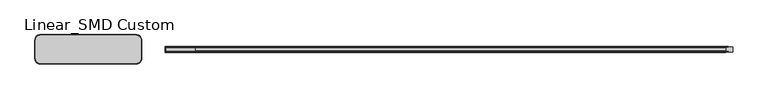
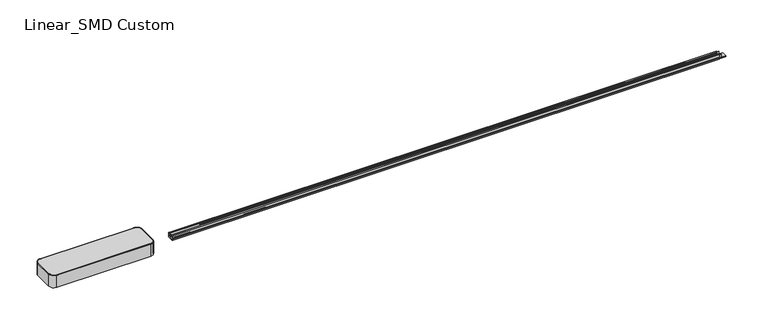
"""IFC4 building model written with IfcOpenShell, lengths in millimetres: light fixture geometry, ARTEMIDE-TurnAround-Linear_SMD : Linear_SMD Custom."""

from ifc_helpers import new_model, si_unit, point, frame, frame_2d, origin, origin_with_axes, place, context, project, spatial, polyline, circle_curve, ellipse_curve, trimmed, segment, composite_curve, outline, extrude, source, transform, mapped, element, save
from ifc_brep_helpers import plane_surface, cylinder_surface, revolved_surface, advanced_brep


def linear_smd_custom_d8e69743(model_context):
    return source(origin(), model_context, "Body", "SolidModel", [
        advanced_brep(
        [(-109.8389602, -55.0879179, 0.0), (-470.1610045, -55.0879179, 0.0), (-490.1610045, -35.0879179, 0.0), (-490.1610045, 35.0879179, 0.0), (-470.1610045, 55.0879179, 0.0), (-109.8389602, 55.0879179, 0.0), (-89.8389602, 35.0879179, 0.0), (-89.8389602, -35.0879179, 0.0), (-109.8389602, -53.0879179, 0.0), (-91.8389602, -35.0879179, 0.0), (-91.8389602, 35.0879179, 0.0), (-109.8389602, 53.0879179, 0.0), (-470.1610045, 53.0879179, 0.0), (-488.1610045, 35.0879179, 0.0), (-488.1610045, -35.0879179, 0.0), (-470.1610045, -53.0879179, 0.0), (-488.1610045, -35.0879179, 50.0), (-470.1610045, -53.0879179, 50.0), (-109.8389602, -53.0879179, 50.0), (-91.8389602, -35.0879179, 50.0), (-91.8389602, 35.0879179, 50.0), (-109.8389602, 53.0879179, 50.0), (-470.1610045, 53.0879179, 50.0), (-488.1610045, 35.0879179, 50.0), (-109.8389602, -55.0879179, 48.0), (-470.1610045, -55.0879179, 48.0), (-490.1610045, -35.0879179, 48.0), (-490.1610045, 35.0879179, 48.0), (-470.1610045, 55.0879179, 48.0), (-109.8389602, 55.0879179, 48.0), (-89.8389602, 35.0879179, 48.0), (-89.8389602, -35.0879179, 48.0), (-109.8389602, -53.0879179, 48.0), (-91.8389602, -35.0879179, 48.0), (-91.8389602, 35.0879179, 48.0), (-109.8389602, 53.0879179, 48.0), (-470.1610045, 53.0879179, 48.0), (-488.1610045, 35.0879179, 48.0), (-488.1610045, -35.0879179, 48.0), (-470.1610045, -53.0879179, 48.0)],
        [
            (0, 1),
            (1, 2, circle_curve(frame((-470.1610045, -35.0879179, 0.0), z_axis=(0.0, 0.0, -1.0), x_axis=(-1.0, 0.0, 0.0)), 20.0)),
            (2, 3),
            (3, 4, circle_curve(frame((-470.1610045, 35.0879179, 0.0), z_axis=(0.0, 0.0, -1.0), x_axis=(-1.0, 0.0, 0.0)), 20.0)),
            (4, 5),
            (5, 6, circle_curve(frame((-109.8389602, 35.0879179, 0.0), z_axis=(0.0, 0.0, -1.0), x_axis=(-1.0, 0.0, 0.0)), 20.0)),
            (6, 7),
            (7, 0, circle_curve(frame((-109.8389602, -35.0879179, 0.0), z_axis=(0.0, 0.0, -1.0), x_axis=(-1.0, 0.0, 0.0)), 20.0)),
            (8, 9, circle_curve(frame((-109.8389602, -35.0879179, 0.0), z_axis=(0.0, 0.0, 1.0), x_axis=(-1.0, 0.0, 0.0)), 18.0)),
            (9, 10),
            (10, 11, circle_curve(frame((-109.8389602, 35.0879179, 0.0), z_axis=(0.0, 0.0, 1.0), x_axis=(-1.0, 0.0, 0.0)), 18.0)),
            (11, 12),
            (12, 13, circle_curve(frame((-470.1610045, 35.0879179, 0.0), z_axis=(0.0, 0.0, 1.0), x_axis=(-1.0, 0.0, 0.0)), 18.0)),
            (13, 14),
            (14, 15, circle_curve(frame((-470.1610045, -35.0879179, 0.0), z_axis=(0.0, 0.0, 1.0), x_axis=(-1.0, 0.0, 0.0)), 18.0)),
            (15, 8),
            (16, 17, circle_curve(frame((-470.1610045, -35.0879179, 50.0), z_axis=(0.0, 0.0, 1.0), x_axis=(-1.0, 0.0, 0.0)), 18.0)),
            (17, 18),
            (18, 19, circle_curve(frame((-109.8389602, -35.0879179, 50.0), z_axis=(0.0, 0.0, 1.0), x_axis=(0.0, -1.0, 0.0)), 18.0)),
            (19, 20),
            (20, 21, circle_curve(frame((-109.8389602, 35.0879179, 50.0), z_axis=(0.0, 0.0, 1.0), x_axis=(1.0, 0.0, 0.0)), 18.0)),
            (21, 22),
            (22, 23, circle_curve(frame((-470.1610045, 35.0879179, 50.0), z_axis=(0.0, 0.0, 1.0), x_axis=(0.0, 1.0, 0.0)), 18.0)),
            (23, 16),
            (0, 24),
            (24, 25),
            (25, 1),
            (2, 26),
            (26, 27),
            (27, 3),
            (4, 28),
            (28, 29),
            (29, 5),
            (6, 30),
            (30, 31),
            (31, 7),
            (25, 26, circle_curve(frame((-470.1610045, -35.0879179, 48.0), z_axis=(0.0, 0.0, -1.0), x_axis=(-1.0, 0.0, 0.0)), 20.0)),
            (27, 28, circle_curve(frame((-470.1610045, 35.0879179, 48.0), z_axis=(0.0, 0.0, -1.0), x_axis=(-1.0, 0.0, 0.0)), 20.0)),
            (29, 30, circle_curve(frame((-109.8389602, 35.0879179, 48.0), z_axis=(0.0, 0.0, -1.0), x_axis=(-1.0, 0.0, 0.0)), 20.0)),
            (31, 24, circle_curve(frame((-109.8389602, -35.0879179, 48.0), z_axis=(0.0, 0.0, -1.0), x_axis=(-1.0, 0.0, 0.0)), 20.0)),
            (8, 32),
            (32, 33, circle_curve(frame((-109.8389602, -35.0879179, 48.0), z_axis=(0.0, 0.0, 1.0), x_axis=(-1.0, 0.0, 0.0)), 18.0)),
            (33, 9),
            (33, 34),
            (34, 10),
            (34, 35, circle_curve(frame((-109.8389602, 35.0879179, 48.0), z_axis=(0.0, 0.0, 1.0), x_axis=(-1.0, 0.0, 0.0)), 18.0)),
            (35, 11),
            (35, 36),
            (36, 12),
            (36, 37, circle_curve(frame((-470.1610045, 35.0879179, 48.0), z_axis=(0.0, 0.0, 1.0), x_axis=(-1.0, 0.0, 0.0)), 18.0)),
            (37, 13),
            (37, 38),
            (38, 14),
            (38, 39, circle_curve(frame((-470.1610045, -35.0879179, 48.0), z_axis=(0.0, 0.0, 1.0), x_axis=(-1.0, 0.0, 0.0)), 18.0)),
            (39, 15),
            (39, 32),
            (25, 17, circle_curve(frame((-470.1610045, -53.0879179, 48.0), z_axis=(-1.0, 0.0, 0.0), x_axis=(0.0, 1.0, 0.0)), 2.0)),
            (16, 26, circle_curve(frame((-488.1610045, -35.0879179, 48.0), z_axis=(0.0, -1.0, 0.0), x_axis=(1.0, 0.0, 0.0)), 2.0)),
            (24, 18, circle_curve(frame((-109.8389602, -53.0879179, 48.0), z_axis=(-1.0, 0.0, 0.0), x_axis=(0.0, 1.0, 0.0)), 2.0)),
            (31, 19, circle_curve(frame((-91.8389602, -35.0879179, 48.0), z_axis=(0.0, -1.0, 0.0), x_axis=(-1.0, 0.0, 0.0)), 2.0)),
            (30, 20, circle_curve(frame((-91.8389602, 35.0879179, 48.0), z_axis=(0.0, -1.0, 0.0), x_axis=(-1.0, 0.0, 0.0)), 2.0)),
            (29, 21, circle_curve(frame((-109.8389602, 53.0879179, 48.0), z_axis=(1.0, 0.0, 0.0), x_axis=(0.0, -1.0, 0.0)), 2.0)),
            (28, 22, circle_curve(frame((-470.1610045, 53.0879179, 48.0), z_axis=(1.0, 0.0, 0.0), x_axis=(0.0, -1.0, 0.0)), 2.0)),
            (27, 23, circle_curve(frame((-488.1610045, 35.0879179, 48.0), z_axis=(0.0, 1.0, 0.0), x_axis=(1.0, 0.0, 0.0)), 2.0)),
        ],
        [
            plane_surface(frame((-470.1610045, -55.0879179, 0.0), z_axis=(0.0, 0.0, -1.0), x_axis=(-1.0, 0.0, 0.0))),
            plane_surface(frame((-470.1610045, -55.0879179, 50.0), z_axis=(0.0, 0.0, 1.0), x_axis=(1.0, 0.0, 0.0))),
            plane_surface(frame((-109.8389602, -55.0879179, 0.0), z_axis=(0.0, -1.0, 0.0), x_axis=(0.0, 0.0, 1.0))),
            plane_surface(frame((-490.1610045, -35.0879179, 0.0), z_axis=(-1.0, 0.0, 0.0), x_axis=(0.0, 0.0, 1.0))),
            plane_surface(frame((-470.1610045, 55.0879179, 0.0), z_axis=(0.0, 1.0, 0.0), x_axis=(0.0, 0.0, 1.0))),
            plane_surface(frame((-89.8389602, 35.0879179, 0.0), z_axis=(1.0, 0.0, 0.0), x_axis=(0.0, 0.0, 1.0))),
            cylinder_surface(frame((-470.1610045, -35.0879179, 50.0), z_axis=(0.0, 0.0, -1.0), x_axis=(-1.0, 0.0, 0.0)), 20.0),
            cylinder_surface(frame((-470.1610045, 35.0879179, 50.0), z_axis=(0.0, 0.0, -1.0), x_axis=(-1.0, 0.0, 0.0)), 20.0),
            cylinder_surface(frame((-109.8389602, 35.0879179, 50.0), z_axis=(0.0, 0.0, -1.0), x_axis=(-1.0, 0.0, 0.0)), 20.0),
            cylinder_surface(frame((-109.8389602, -35.0879179, 50.0), z_axis=(0.0, 0.0, -1.0), x_axis=(-1.0, 0.0, 0.0)), 20.0),
            revolved_surface(polyline([(-127.8389602, -35.0879179, 48.0), (-127.8389602, -35.0879179, 0.0)]), (-109.8389602, -35.0879179, 0.0), (0.0, 0.0, 1.0)),
            plane_surface(frame((-91.8389602, -35.0879179, 0.0), z_axis=(-1.0, 0.0, 0.0), x_axis=(0.0, 0.0, 1.0))),
            revolved_surface(polyline([(-127.8389602, 35.0879179, 48.0), (-127.8389602, 35.0879179, 0.0)]), (-109.8389602, 35.0879179, 0.0), (0.0, 0.0, 1.0)),
            plane_surface(frame((-109.8389602, 53.0879179, 0.0), z_axis=(0.0, -1.0, 0.0), x_axis=(0.0, 0.0, 1.0))),
            revolved_surface(polyline([(-488.1610045, 35.0879179, 48.0), (-488.1610045, 35.0879179, 0.0)]), (-470.1610045, 35.0879179, 0.0), (0.0, 0.0, 1.0)),
            plane_surface(frame((-488.1610045, 35.0879179, 0.0), z_axis=(1.0, 0.0, 0.0), x_axis=(0.0, 0.0, 1.0))),
            revolved_surface(polyline([(-488.1610045, -35.0879179, 48.0), (-488.1610045, -35.0879179, 0.0)]), (-470.1610045, -35.0879179, 0.0), (0.0, 0.0, 1.0)),
            plane_surface(frame((-470.1610045, -53.0879179, 0.0), z_axis=(0.0, 1.0, 0.0), x_axis=(0.0, 0.0, 1.0))),
            plane_surface(frame((-470.1610045, -55.0879179, 48.0), z_axis=(0.0, 0.0, -1.0), x_axis=(-1.0, 0.0, 0.0))),
            revolved_surface(trimmed(ellipse_curve(frame((-488.1610045, -35.0879179, 48.0), z_axis=(0.0, 1.0, 0.0), x_axis=(1.0, 0.0, 0.0)), 2.0, 2.0), [point((-490.1610045, -35.0879179, 48.0))], [point((-488.1610045, -35.0879179, 50.0))], True, "CARTESIAN"), (-470.1610045, -35.0879179, 50.0), (0.0, 0.0, 1.0)),
            cylinder_surface(frame((-470.1610045, -53.0879179, 48.0), z_axis=(1.0, 0.0, 0.0), x_axis=(0.0, 1.0, 0.0)), 2.0),
            revolved_surface(trimmed(ellipse_curve(frame((-109.8389602, -53.0879179, 48.0), z_axis=(-1.0, 0.0, 0.0), x_axis=(0.0, 1.0, 0.0)), 2.0, 2.0), [point((-109.8389602, -55.0879179, 48.0))], [point((-109.8389602, -53.0879179, 50.0))], True, "CARTESIAN"), (-109.8389602, -35.0879179, 50.0), (0.0, 0.0, 1.0)),
            cylinder_surface(frame((-91.8389602, -35.0879179, 48.0), z_axis=(0.0, 1.0, 0.0), x_axis=(-1.0, 0.0, 0.0)), 2.0),
            revolved_surface(trimmed(ellipse_curve(frame((-91.8389602, 35.0879179, 48.0), z_axis=(0.0, -1.0, 0.0), x_axis=(-1.0, 0.0, 0.0)), 2.0, 2.0), [point((-89.8389602, 35.0879179, 48.0))], [point((-91.8389602, 35.0879179, 50.0))], True, "CARTESIAN"), (-109.8389602, 35.0879179, 50.0), (0.0, 0.0, 1.0)),
            cylinder_surface(frame((-109.8389602, 53.0879179, 48.0), z_axis=(-1.0, 0.0, 0.0), x_axis=(0.0, -1.0, 0.0)), 2.0),
            revolved_surface(trimmed(ellipse_curve(frame((-470.1610045, 53.0879179, 48.0), z_axis=(1.0, 0.0, 0.0), x_axis=(0.0, -1.0, 0.0)), 2.0, 2.0), [point((-470.1610045, 55.0879179, 48.0))], [point((-470.1610045, 53.0879179, 50.0))], True, "CARTESIAN"), (-470.1610045, 35.0879179, 50.0), (0.0, 0.0, 1.0)),
            cylinder_surface(frame((-488.1610045, 35.0879179, 48.0), z_axis=(0.0, -1.0, 0.0), x_axis=(1.0, 0.0, 0.0)), 2.0),
        ],
        [
            (0, [[1, 2, 3, 4, 5, 6, 7, 8], [9, 10, 11, 12, 13, 14, 15, 16]]),
            (1, [[17, 18, 19, 20, 21, 22, 23, 24]]),
            (2, [[-1, 25, 26, 27]]),
            (3, [[-3, 28, 29, 30]]),
            (4, [[-5, 31, 32, 33]]),
            (5, [[-7, 34, 35, 36]]),
            (6, [[-2, -27, 37, -28]]),
            (7, [[-4, -30, 38, -31]]),
            (8, [[-6, -33, 39, -34]]),
            (9, [[-8, -36, 40, -25]]),
            (10, [[-9, 41, 42, 43]]),
            (11, [[-10, -43, 44, 45]]),
            (12, [[-11, -45, 46, 47]]),
            (13, [[-12, -47, 48, 49]]),
            (14, [[-13, -49, 50, 51]]),
            (15, [[-14, -51, 52, 53]]),
            (16, [[-15, -53, 54, 55]]),
            (17, [[-16, -55, 56, -41]]),
            (18, [[-42, -56, -54, -52, -50, -48, -46, -44]]),
            (19, [[57, -17, 58, -37]]),
            (20, [[-57, -26, 59, -18]]),
            (21, [[-59, -40, 60, -19]]),
            (22, [[-60, -35, 61, -20]]),
            (23, [[-61, -39, 62, -21]]),
            (24, [[-62, -32, 63, -22]]),
            (25, [[-63, -38, 64, -23]]),
            (26, [[-58, -24, -64, -29]]),
        ],
    ),
        extrude(outline(polyline([(110.0, 6.3498693), (110.0, -6.3499287), (0.0, -6.3499287), (0.0, 6.3498693), (110.0, 6.3498693)])), frame((0.0, 0.0, 6.9503638), z_axis=(0.0, 0.0, 1.0), x_axis=(1.0, 0.0, 0.0)), (0.0, 0.0, 1.0), 10.8496362),
        extrude(outline(composite_curve([segment(polyline([(9.9996331, 6.7503638), (9.9996331, 17.2002115), (7.9680122, 17.2001219), (7.9680122, 16.200149), (7.1680122, 16.200149), (7.1680122, 17.0500635), (6.3498693, 17.0500635), (6.3498693, 18.3), (11.0170651, 18.3), (11.0170651, 7.9565084)]), True, "CONTINUOUS"), segment(trimmed(circle_curve(frame_2d((18.0138248, 5.9749675)), 7.2719427), [point((11.0170651, 7.9565084))], [point((11.0170651, 3.9934267))], True, "CARTESIAN"), True, "CONTINUOUS"), segment(polyline([(11.0170651, 3.9934267), (11.0170651, 0.0003595), (10.000004, 0.0003595), (10.000004, 2.0003645), (6.3499287, 2.0003645), (6.3499287, 3.2503421), (9.4999904, 3.2503421), (9.4999904, 5.300364), (-9.4999904, 5.300364), (-9.4999904, 3.2503421), (-6.3499287, 3.2503421), (-6.3499287, 2.0003645), (-10.000004, 2.0003645), (-10.000004, 0.0003595), (-11.0170651, 0.0003595), (-11.0170651, 3.9934267)]), True, "CONTINUOUS"), segment(trimmed(circle_curve(frame_2d((-18.0138248, 5.9749675)), 7.2719427), [point((-11.0170651, 3.9934267))], [point((-11.0170651, 7.9565084))], True, "CARTESIAN"), True, "CONTINUOUS"), segment(polyline([(-11.0170651, 7.9565084), (-11.0170651, 18.3), (-6.3498693, 18.3), (-6.3498693, 17.0500635), (-7.1680122, 17.0500635), (-7.1680122, 16.200149), (-7.9680122, 16.200149), (-7.9680122, 17.2001219), (-9.9996331, 17.2002115), (-9.9996331, 6.7503638), (-7.9680122, 6.7503638), (-7.9680122, 7.7503638), (-7.1680122, 7.7503638), (-7.1680122, 6.9503638), (7.1680122, 6.9503638), (7.1680122, 7.7503638), (7.9680122, 7.7503638), (7.9680122, 6.7503638), (9.9996331, 6.7503638)]), True, "CONTINUOUS")], self_intersect=False)), frame((0.0, 0.0, 0.0), z_axis=(1.0, 0.0, 0.0), x_axis=(0.0, 1.0, 0.0)), (0.0, 0.0, 1.0), 2100.0),
        extrude(outline(polyline([(1390.0, -9.5), (1390.0, 9.5), (1410.0, 9.5), (1410.0, -9.5), (1390.0, -9.5)])), origin_with_axes(), (0.0, 0.0, 1.0), 2.0),
        extrude(outline(polyline([(1410.0, -9.5), (1390.0, -9.5), (1390.0, 9.5), (1410.0, 9.5), (1410.0, -9.5)])), frame((0.0, 0.0, 3.2503421), z_axis=(0.0, 0.0, 1.0), x_axis=(1.0, 0.0, 0.0)), (0.0, 0.0, 1.0), 2.0496579),
        extrude(outline(polyline([(17.0500635, 2103.6635812), (17.0500635, 2096.3364188), (16.2109032, 2091.5773043), (7.804045, 2091.5773043), (6.9503638, 2096.418771), (6.9503638, 2103.581229), (7.804045, 2108.4226957), (16.1818614, 2108.4226957), (17.0500635, 2103.6635812)])), frame((0.0, -10.0, 0.0), z_axis=(0.0, 1.0, 0.0), x_axis=(0.0, 0.0, 1.0)), (0.0, 0.0, 1.0), 1.3991753),
        extrude(outline(polyline([(2075.0, -9.5), (2075.0, 9.5), (2125.0, 9.5), (2125.0, -9.5), (2075.0, -9.5)])), origin_with_axes(), (0.0, 0.0, 1.0), 2.0),
        extrude(outline(polyline([(690.0, -9.5), (690.0, 9.5), (710.0, 9.5), (710.0, -9.5), (690.0, -9.5)])), origin_with_axes(), (0.0, 0.0, 1.0), 2.0),
        extrude(outline(polyline([(0.0, -9.5), (0.0, 9.5), (20.0, 9.5), (20.0, -9.5), (0.0, -9.5)])), origin_with_axes(), (0.0, 0.0, 1.0), 2.0),
        extrude(outline(polyline([(2125.0, -9.5), (2075.0, -9.5), (2075.0, 9.5), (2125.0, 9.5), (2125.0, -9.5)])), frame((0.0, 0.0, 3.2503421), z_axis=(0.0, 0.0, 1.0), x_axis=(1.0, 0.0, 0.0)), (0.0, 0.0, 1.0), 2.0496579),
        extrude(outline(polyline([(710.0, -9.5), (690.0, -9.5), (690.0, 9.5), (710.0, 9.5), (710.0, -9.5)])), frame((0.0, 0.0, 3.2503421), z_axis=(0.0, 0.0, 1.0), x_axis=(1.0, 0.0, 0.0)), (0.0, 0.0, 1.0), 2.0496579),
        extrude(outline(polyline([(20.0, -9.5), (0.0, -9.5), (0.0, 9.5), (20.0, 9.5), (20.0, -9.5)])), frame((0.0, 0.0, 3.2503421), z_axis=(0.0, 0.0, 1.0), x_axis=(1.0, 0.0, 0.0)), (0.0, 0.0, 1.0), 2.0496579),
        extrude(outline(composite_curve([segment(trimmed(circle_curve(frame_2d((7.4508247, 9.9003638)), 1.15), [point((8.6008247, 9.9003638))], [point((6.3008247, 9.9003638))], False, "CARTESIAN"), True, "CONTINUOUS"), segment(trimmed(circle_curve(frame_2d((7.4508247, 9.9003638)), 1.15), [point((6.3008247, 9.9003638))], [point((8.6008247, 9.9003638))], False, "CARTESIAN"), True, "CONTINUOUS")], self_intersect=False)), frame((0.0, 0.0, 0.0), z_axis=(1.0, 0.0, 0.0), x_axis=(0.0, 1.0, 0.0)), (0.0, 0.0, 1.0), 2100.0),
        extrude(outline(composite_curve([segment(trimmed(circle_curve(frame_2d((7.4508247, 14.0502732)), 1.15), [point((8.6008247, 14.0502732))], [point((6.3008247, 14.0502732))], False, "CARTESIAN"), True, "CONTINUOUS"), segment(trimmed(circle_curve(frame_2d((7.4508247, 14.0502732)), 1.15), [point((6.3008247, 14.0502732))], [point((8.6008247, 14.0502732))], False, "CARTESIAN"), True, "CONTINUOUS")], self_intersect=False)), frame((0.0, 0.0, 0.0), z_axis=(1.0, 0.0, 0.0), x_axis=(0.0, 1.0, 0.0)), (0.0, 0.0, 1.0), 2100.0),
        extrude(outline(composite_curve([segment(trimmed(circle_curve(frame_2d((-7.4508247, 9.9003638)), 1.15), [point((-8.6008247, 9.9003638))], [point((-6.3008247, 9.9003638))], False, "CARTESIAN"), True, "CONTINUOUS"), segment(trimmed(circle_curve(frame_2d((-7.4508247, 9.9003638)), 1.15), [point((-6.3008247, 9.9003638))], [point((-8.6008247, 9.9003638))], False, "CARTESIAN"), True, "CONTINUOUS")], self_intersect=False)), frame((0.0, 0.0, 0.0), z_axis=(1.0, 0.0, 0.0), x_axis=(0.0, 1.0, 0.0)), (0.0, 0.0, 1.0), 2100.0),
        extrude(outline(composite_curve([segment(trimmed(circle_curve(frame_2d((-7.4508247, 14.0502732)), 1.15), [point((-8.6008247, 14.0502732))], [point((-6.3008247, 14.0502732))], False, "CARTESIAN"), True, "CONTINUOUS"), segment(trimmed(circle_curve(frame_2d((-7.4508247, 14.0502732)), 1.15), [point((-6.3008247, 14.0502732))], [point((-8.6008247, 14.0502732))], False, "CARTESIAN"), True, "CONTINUOUS")], self_intersect=False)), frame((0.0, 0.0, 0.0), z_axis=(1.0, 0.0, 0.0), x_axis=(0.0, 1.0, 0.0)), (0.0, 0.0, 1.0), 2100.0),
        advanced_brep(
        [(10.0, 9.9996331, 6.7503638), (10.0, 7.9680122, 6.7503638), (10.0, 7.9680122, 7.7503638), (10.0, 6.3251754, 7.7503638), (10.0, 6.3251754, 8.7503638), (10.0, 7.4508247, 8.7503638), (10.0, 7.4508247, 11.0503638), (10.0, 6.3251754, 11.0503638), (10.0, 6.3251754, 12.9002732), (10.0, 7.4508247, 12.9002732), (10.0, 7.4508247, 15.2002732), (10.0, 6.3251754, 15.2002732), (10.0, 6.3251754, 16.2002732), (10.0, 7.9680122, 16.200149), (10.0, 7.9680122, 17.2001219), (10.0, 9.9996331, 17.2002115), (2090.0, 9.9996331, 6.7503638), (2090.0, 9.9996331, 17.2002115), (2090.0, 7.9680122, 17.2001219), (2090.0, 7.9680122, 16.200149), (2090.0, 6.3251754, 16.200149), (2090.0, 6.3251754, 15.2002732), (2090.0, 7.4508247, 15.2002732), (2090.0, 7.4508247, 12.9002732), (2090.0, 6.3251754, 12.9002732), (2090.0, 6.3251754, 11.0503638), (2090.0, 7.4508247, 11.0503638), (2090.0, 7.4508247, 8.7503638), (2090.0, 6.3251754, 8.7503638), (2090.0, 6.3251754, 7.7503638), (2090.0, 7.9680122, 7.7503638), (2090.0, 7.9680122, 6.7503638)],
        [
            (0, 1),
            (1, 2),
            (2, 3),
            (3, 4),
            (4, 5),
            (5, 6, circle_curve(frame((10.0, 7.4508247, 9.9003638), z_axis=(1.0, 0.0, 0.0), x_axis=(0.0, -1.0, 0.0)), 1.15)),
            (6, 7),
            (7, 8),
            (8, 9),
            (9, 10, circle_curve(frame((10.0, 7.4508247, 14.0502732), z_axis=(1.0, 0.0, 0.0), x_axis=(0.0, -1.0, 0.0)), 1.15)),
            (10, 11),
            (11, 12),
            (12, 13),
            (13, 14),
            (14, 15),
            (15, 0),
            (16, 17),
            (17, 18),
            (18, 19),
            (19, 20),
            (20, 21),
            (21, 22),
            (22, 23, circle_curve(frame((2090.0, 7.4508247, 14.0502732), z_axis=(-1.0, 0.0, 0.0), x_axis=(0.0, -1.0, 0.0)), 1.15)),
            (23, 24),
            (24, 25),
            (25, 26),
            (26, 27, circle_curve(frame((2090.0, 7.4508247, 9.9003638), z_axis=(-1.0, 0.0, 0.0), x_axis=(0.0, -1.0, 0.0)), 1.15)),
            (27, 28),
            (28, 29),
            (29, 30),
            (30, 31),
            (31, 16),
            (0, 16),
            (31, 1),
            (30, 2),
            (29, 3),
            (28, 4),
            (27, 5),
            (26, 6),
            (25, 7),
            (24, 8),
            (23, 9),
            (22, 10),
            (21, 11),
            (20, 12),
            (19, 13),
            (18, 14),
            (17, 15),
        ],
        [
            plane_surface(frame((10.0, 0.0, 5.8), z_axis=(-1.0, 0.0, 0.0), x_axis=(0.0, 0.0, 1.0))),
            plane_surface(frame((2090.0, 0.0, 5.8), z_axis=(1.0, 0.0, 0.0), x_axis=(0.0, 0.0, 1.0))),
            plane_surface(frame((10.0, 9.9996331, 6.7503638), z_axis=(0.0, 0.0, -1.0), x_axis=(1.0, 0.0, 0.0))),
            plane_surface(frame((10.0, 7.9680122, 6.7503638), z_axis=(0.0, -1.0, 0.0), x_axis=(1.0, 0.0, 0.0))),
            plane_surface(frame((10.0, 7.1680122, 7.7503638), z_axis=(0.0, 0.0, -1.0), x_axis=(1.0, 0.0, 0.0))),
            plane_surface(frame((10.0, 6.3251754, 7.7503638), z_axis=(0.0, -1.0, 0.0), x_axis=(1.0, 0.0, 0.0))),
            plane_surface(frame((10.0, 6.3251754, 8.7503638), z_axis=(0.0, 0.0, 1.0), x_axis=(1.0, 0.0, 0.0))),
            revolved_surface(polyline([(2090.0, 6.3008247, 9.9003638), (10.0, 6.3008247, 9.9003638)]), (10.0, 7.4508247, 9.9003638), (1.0, 0.0, 0.0)),
            plane_surface(frame((10.0, 7.4508247, 11.0503638), z_axis=(0.0, 0.0, -1.0), x_axis=(1.0, 0.0, 0.0))),
            plane_surface(frame((10.0, 6.3251754, 11.0503638), z_axis=(0.0, -1.0, 0.0), x_axis=(1.0, 0.0, 0.0))),
            plane_surface(frame((10.0, 6.3251754, 12.9002732), z_axis=(0.0, 0.0, 1.0), x_axis=(1.0, 0.0, 0.0))),
            revolved_surface(polyline([(2090.0, 6.3008247, 14.0502732), (10.0, 6.3008247, 14.0502732)]), (10.0, 7.4508247, 14.0502732), (1.0, 0.0, 0.0)),
            plane_surface(frame((10.0, 7.4508247, 15.2002732), z_axis=(0.0, 0.0, -1.0), x_axis=(1.0, 0.0, 0.0))),
            plane_surface(frame((10.0, 6.3251754, 15.2002732), z_axis=(0.0, -1.0, 0.0), x_axis=(1.0, 0.0, 0.0))),
            plane_surface(frame((10.0, 7.1680122, 16.200149), z_axis=(0.0, 0.0, 1.0), x_axis=(1.0, 0.0, 0.0))),
            plane_surface(frame((10.0, 7.9680122, 16.200149), z_axis=(0.0, -1.0, 0.0), x_axis=(1.0, 0.0, 0.0))),
            plane_surface(frame((10.0, 7.9680122, 17.2001219), z_axis=(0.0, -4.411116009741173e-05, 0.9999999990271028), x_axis=(1.0, 0.0, 0.0))),
            plane_surface(frame((10.0, 9.9996331, 17.2002115), z_axis=(0.0, 1.0, 0.0), x_axis=(1.0, 0.0, 0.0))),
        ],
        [
            (0, [[1, 2, 3, 4, 5, 6, 7, 8, 9, 10, 11, 12, 13, 14, 15, 16]]),
            (1, [[17, 18, 19, 20, 21, 22, 23, 24, 25, 26, 27, 28, 29, 30, 31, 32]]),
            (2, [[-1, 33, -32, 34]]),
            (3, [[-2, -34, -31, 35]]),
            (4, [[-35, -30, 36, -3]]),
            (5, [[-4, -36, -29, 37]]),
            (6, [[-5, -37, -28, 38]]),
            (7, [[-6, -38, -27, 39]]),
            (8, [[-7, -39, -26, 40]]),
            (9, [[-8, -40, -25, 41]]),
            (10, [[-9, -41, -24, 42]]),
            (11, [[-10, -42, -23, 43]]),
            (12, [[-11, -43, -22, 44]]),
            (13, [[-12, -44, -21, 45]]),
            (14, [[-45, -20, 46, -13]]),
            (15, [[-14, -46, -19, 47]]),
            (16, [[-15, -47, -18, 48]]),
            (17, [[-16, -48, -17, -33]]),
        ],
    ),
        advanced_brep(
        [(10.0, -9.9996331, 6.7503638), (10.0, -9.9996331, 17.2002115), (10.0, -7.9680122, 17.2001219), (10.0, -7.9680122, 16.200149), (10.0, -6.3251754, 16.2002732), (10.0, -6.3251754, 15.2002732), (10.0, -7.4508247, 15.2002732), (10.0, -7.4508247, 12.9002732), (10.0, -6.3251754, 12.9002732), (10.0, -6.3251754, 11.0503638), (10.0, -7.4508247, 11.0503638), (10.0, -7.4508247, 8.7503638), (10.0, -6.3251754, 8.7503638), (10.0, -6.3251754, 7.7503638), (10.0, -7.9680122, 7.7503638), (10.0, -7.9680122, 6.7503638), (2090.0, -9.9996331, 6.7503638), (2090.0, -7.9680122, 6.7503638), (2090.0, -7.9680122, 7.7503638), (2090.0, -6.3251754, 7.7503638), (2090.0, -6.3251754, 8.7503638), (2090.0, -7.4508247, 8.7503638), (2090.0, -7.4508247, 11.0503638), (2090.0, -6.3251754, 11.0503638), (2090.0, -6.3251754, 12.9002732), (2090.0, -7.4508247, 12.9002732), (2090.0, -7.4508247, 15.2002732), (2090.0, -6.3251754, 15.2002732), (2090.0, -6.3251754, 16.2002732), (2090.0, -7.9680122, 16.2002732), (2090.0, -7.9680122, 17.2001219), (2090.0, -9.9996331, 17.2002115)],
        [
            (0, 1),
            (1, 2),
            (2, 3),
            (3, 4),
            (4, 5),
            (5, 6),
            (6, 7, circle_curve(frame((10.0, -7.4508247, 14.0502732), z_axis=(1.0, 0.0, 0.0), x_axis=(0.0, 1.0, 0.0)), 1.15)),
            (7, 8),
            (8, 9),
            (9, 10),
            (10, 11, circle_curve(frame((10.0, -7.4508247, 9.9003638), z_axis=(1.0, 0.0, 0.0), x_axis=(0.0, 1.0, 0.0)), 1.15)),
            (11, 12),
            (12, 13),
            (13, 14),
            (14, 15),
            (15, 0),
            (16, 17),
            (17, 18),
            (18, 19),
            (19, 20),
            (20, 21),
            (21, 22, circle_curve(frame((2090.0, -7.4508247, 9.9003638), z_axis=(-1.0, 0.0, 0.0), x_axis=(0.0, 1.0, 0.0)), 1.15)),
            (22, 23),
            (23, 24),
            (24, 25),
            (25, 26, circle_curve(frame((2090.0, -7.4508247, 14.0502732), z_axis=(-1.0, 0.0, 0.0), x_axis=(0.0, 1.0, 0.0)), 1.15)),
            (26, 27),
            (27, 28),
            (28, 29),
            (29, 30),
            (30, 31),
            (31, 16),
            (0, 16),
            (31, 1),
            (30, 2),
            (29, 3),
            (28, 4),
            (27, 5),
            (26, 6),
            (25, 7),
            (24, 8),
            (23, 9),
            (22, 10),
            (21, 11),
            (20, 12),
            (19, 13),
            (18, 14),
            (17, 15),
        ],
        [
            plane_surface(frame((10.0, 0.0, 5.8), z_axis=(-1.0, 0.0, 0.0), x_axis=(0.0, 0.0, 1.0))),
            plane_surface(frame((2090.0, 0.0, 5.8), z_axis=(1.0, 0.0, 0.0), x_axis=(0.0, 0.0, 1.0))),
            plane_surface(frame((10.0, -9.9996331, 6.7503638), z_axis=(0.0, -1.0, 0.0), x_axis=(1.0, 0.0, 0.0))),
            plane_surface(frame((10.0, -9.9996331, 17.2002115), z_axis=(0.0, 4.4111160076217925e-05, 0.9999999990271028), x_axis=(1.0, 0.0, 0.0))),
            plane_surface(frame((10.0, -7.9680122, 17.2001219), z_axis=(0.0, 1.0, 0.0), x_axis=(1.0, 0.0, 0.0))),
            plane_surface(frame((10.0, -7.1680122, 16.2002732), z_axis=(0.0, 0.0, 1.0), x_axis=(1.0, 0.0, 0.0))),
            plane_surface(frame((10.0, -6.3251754, 16.2002732), z_axis=(0.0, 1.0, 0.0), x_axis=(1.0, 0.0, 0.0))),
            plane_surface(frame((10.0, -6.3251754, 15.2002732), z_axis=(0.0, 0.0, -1.0), x_axis=(1.0, 0.0, 0.0))),
            revolved_surface(polyline([(2090.0, -6.3008247, 14.0502732), (10.0, -6.3008247, 14.0502732)]), (10.0, -7.4508247, 14.0502732), (1.0, 0.0, 0.0)),
            plane_surface(frame((10.0, -7.4508247, 12.9002732), z_axis=(0.0, 0.0, 1.0), x_axis=(1.0, 0.0, 0.0))),
            plane_surface(frame((10.0, -6.3251754, 12.9002732), z_axis=(0.0, 1.0, 0.0), x_axis=(1.0, 0.0, 0.0))),
            plane_surface(frame((10.0, -6.3251754, 11.0503638), z_axis=(0.0, 0.0, -1.0), x_axis=(1.0, 0.0, 0.0))),
            revolved_surface(polyline([(2090.0, -6.3008247, 9.9003638), (10.0, -6.3008247, 9.9003638)]), (10.0, -7.4508247, 9.9003638), (1.0, 0.0, 0.0)),
            plane_surface(frame((10.0, -7.4508247, 8.7503638), z_axis=(0.0, 0.0, 1.0), x_axis=(1.0, 0.0, 0.0))),
            plane_surface(frame((10.0, -6.3251754, 8.7503638), z_axis=(0.0, 1.0, 0.0), x_axis=(1.0, 0.0, 0.0))),
            plane_surface(frame((10.0, -7.1680122, 7.7503638), z_axis=(0.0, 0.0, -1.0), x_axis=(1.0, 0.0, 0.0))),
            plane_surface(frame((10.0, -7.9680122, 7.7503638), z_axis=(0.0, 1.0, 0.0), x_axis=(1.0, 0.0, 0.0))),
            plane_surface(frame((10.0, -7.9680122, 6.7503638), z_axis=(0.0, 0.0, -1.0), x_axis=(1.0, 0.0, 0.0))),
        ],
        [
            (0, [[1, 2, 3, 4, 5, 6, 7, 8, 9, 10, 11, 12, 13, 14, 15, 16]]),
            (1, [[17, 18, 19, 20, 21, 22, 23, 24, 25, 26, 27, 28, 29, 30, 31, 32]]),
            (2, [[-1, 33, -32, 34]]),
            (3, [[-2, -34, -31, 35]]),
            (4, [[-3, -35, -30, 36]]),
            (5, [[-36, -29, 37, -4]]),
            (6, [[-5, -37, -28, 38]]),
            (7, [[-6, -38, -27, 39]]),
            (8, [[-7, -39, -26, 40]]),
            (9, [[-8, -40, -25, 41]]),
            (10, [[-9, -41, -24, 42]]),
            (11, [[-10, -42, -23, 43]]),
            (12, [[-11, -43, -22, 44]]),
            (13, [[-12, -44, -21, 45]]),
            (14, [[-13, -45, -20, 46]]),
            (15, [[-46, -19, 47, -14]]),
            (16, [[-15, -47, -18, 48]]),
            (17, [[-16, -48, -17, -33]]),
        ],
    ),
        advanced_brep(
        [(-1.8, -10.4170651, 1.0003595), (-1.8, -10.4170651, 17.3), (-1.8, 10.4170651, 17.3), (-1.8, 10.4170651, 1.0003595), (-1.8, -4.0, 11.9753185), (-1.8, 4.0, 11.9753185), (0.0, -11.4170651, 18.3), (0.0, -11.4170651, 0.0003595), (0.0, 11.4170651, 0.0003595), (0.0, 11.4170651, 18.3), (0.0, 4.0, 11.9753185), (0.0, -4.0, 11.9753185), (-0.8, -11.4170651, 18.3), (-0.8, -11.4170651, 0.0003595), (-0.8, 11.4170651, 0.0003595), (-0.8, 11.4170651, 18.3)],
        [
            (0, 1),
            (1, 2),
            (2, 3),
            (3, 0),
            (4, 5, circle_curve(frame((-1.8, 0.0, 11.9753185), z_axis=(1.0, 0.0, 0.0), x_axis=(0.0, 1.0, 0.0)), 4.0)),
            (5, 4, circle_curve(frame((-1.8, 0.0, 11.9753185), z_axis=(1.0, 0.0, 0.0), x_axis=(0.0, 1.0, 0.0)), 4.0)),
            (6, 7),
            (7, 8),
            (8, 9),
            (9, 6),
            (10, 11, circle_curve(frame((0.0, 0.0, 11.9753185), z_axis=(-1.0, 0.0, 0.0), x_axis=(0.0, 1.0, 0.0)), 4.0)),
            (11, 10, circle_curve(frame((0.0, 0.0, 11.9753185), z_axis=(-1.0, 0.0, 0.0), x_axis=(0.0, 1.0, 0.0)), 4.0)),
            (6, 12),
            (12, 13),
            (13, 7),
            (13, 14),
            (14, 8),
            (14, 15),
            (15, 9),
            (15, 12),
            (0, 13, ellipse_curve(frame((-0.8, -10.4170651, 1.0003595), z_axis=(0.0, -0.7071067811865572, 0.7071067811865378), x_axis=(0.0, -0.7071067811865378, -0.7071067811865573)), 1.4142136, 1.0)),
            (12, 1, ellipse_curve(frame((-0.8, -10.4170651, 17.3), z_axis=(0.0, -0.7071067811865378, -0.7071067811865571), x_axis=(0.0, 0.7071067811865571, -0.7071067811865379)), 1.4142136, 1.0)),
            (3, 14, ellipse_curve(frame((-0.8, 10.4170651, 1.0003595), z_axis=(0.0, -0.7071067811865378, -0.7071067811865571), x_axis=(0.0, 0.7071067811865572, -0.7071067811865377)), 1.4142136, 1.0)),
            (2, 15, ellipse_curve(frame((-0.8, 10.4170651, 17.3), z_axis=(0.0, 0.7071067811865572, -0.7071067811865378), x_axis=(0.0, 0.7071067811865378, 0.7071067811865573)), 1.4142136, 1.0)),
            (4, 11),
            (10, 5),
        ],
        [
            plane_surface(frame((-1.8, 11.4170651, 18.3), z_axis=(-1.0, 0.0, 0.0), x_axis=(0.0, 1.0, 0.0))),
            plane_surface(frame((0.0, 11.4170651, 18.3), z_axis=(1.0, 0.0, 0.0), x_axis=(0.0, -1.0, 0.0))),
            plane_surface(frame((-1.8, -11.4170651, 0.0003595), z_axis=(0.0, -1.0, 0.0), x_axis=(1.0, 0.0, 0.0))),
            plane_surface(frame((-1.8, 11.4170651, 0.0003595), z_axis=(0.0, 0.0, -1.0), x_axis=(1.0, 0.0, 0.0))),
            plane_surface(frame((-1.8, 11.4170651, 18.3), z_axis=(0.0, 1.0, 0.0), x_axis=(1.0, 0.0, 0.0))),
            plane_surface(frame((-1.8, -11.4170651, 18.3), z_axis=(0.0, 0.0, 1.0), x_axis=(1.0, 0.0, 0.0))),
            cylinder_surface(frame((-0.8, -10.4170651, 18.3), z_axis=(0.0, 0.0, -1.0), x_axis=(1.0, 0.0, 0.0)), 1.0),
            cylinder_surface(frame((-0.8, -11.4170651, 1.0003595), z_axis=(0.0, 1.0, 0.0), x_axis=(1.0, 0.0, 0.0)), 1.0),
            cylinder_surface(frame((-0.8, 10.4170651, 0.0003595), z_axis=(0.0, 0.0, 1.0), x_axis=(1.0, 0.0, 0.0)), 1.0),
            cylinder_surface(frame((-0.8, 11.4170651, 17.3), z_axis=(0.0, -1.0, 0.0), x_axis=(1.0, 0.0, 0.0)), 1.0),
            revolved_surface(polyline([(0.0, 4.0, 11.9753185), (-1.7999999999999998, 4.0, 11.9753185)]), (-5.0, 0.0, 11.9753185), (1.0, 0.0, 0.0)),
        ],
        [
            (0, [[1, 2, 3, 4], [5, 6]]),
            (1, [[7, 8, 9, 10], [11, 12]]),
            (2, [[-7, 13, 14, 15]]),
            (3, [[-8, -15, 16, 17]]),
            (4, [[-9, -17, 18, 19]]),
            (5, [[-10, -19, 20, -13]]),
            (6, [[21, -14, 22, -1]]),
            (7, [[-21, -4, 23, -16]]),
            (8, [[-23, -3, 24, -18]]),
            (9, [[-22, -20, -24, -2]]),
            (10, [[25, -11, 26, -5]]),
            (10, [[-25, -6, -26, -12]]),
        ],
    ),
        extrude(outline(polyline([(17.0500635, 2103.6635812), (17.0500635, 2096.3364188), (16.2109032, 2091.5773043), (7.804045, 2091.5773043), (6.9503638, 2096.418771), (6.9503638, 2103.7459334), (7.804045, 2108.5874002), (16.1818614, 2108.5874002), (17.0500635, 2103.6635812)])), frame((0.0, 8.6008247, 0.0), z_axis=(0.0, 1.0, 0.0), x_axis=(0.0, 0.0, 1.0)), (0.0, 0.0, 1.0), 1.3991753),
    ])


if __name__ == "__main__":
    model = new_model("IFC4")
    model_context = context("Model", 3, world=origin())
    ifc_project = project(units=[si_unit("LENGTHUNIT", "METRE", prefix="MILLI")], contexts=[model_context])
    site = spatial("IfcSite", under=ifc_project)
    building = spatial("IfcBuilding", under=site)
    placement = place(None, origin())
    linear_smd_custom_shape = linear_smd_custom_d8e69743(model_context)
    element("IfcLightFixture", 1, ObjectType="ARTEMIDE-TurnAround-Linear_SMD : Linear_SMD Custom", at=placement, inside=building, context=model_context, shape_type="MappedRepresentation", body=[
        mapped(linear_smd_custom_shape, transform((0.0, 0.0, 0.0), x_axis=(1.0, 0.0, 0.0), y_axis=(0.0, 1.0, 0.0), z_axis=(0.0, 0.0, 1.0))),
    ])
    save(model, "model.ifc")
